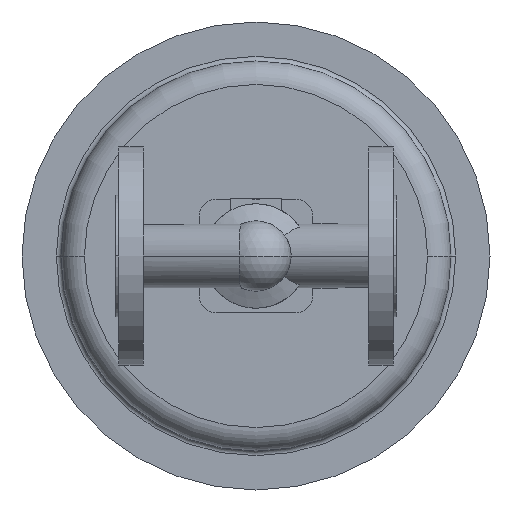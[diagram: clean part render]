
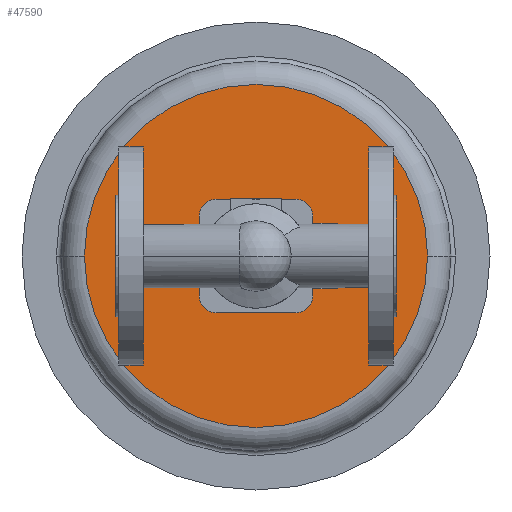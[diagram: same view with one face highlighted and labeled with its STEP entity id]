
A CAD part, front view. The second image highlights one B-rep face of the part: STEP entity #47590.
In plain terms, the highlighted planar face has unit normal (0, -1, 0).
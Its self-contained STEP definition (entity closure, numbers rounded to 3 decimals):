
#33890=CARTESIAN_POINT('',(-20.,356.5,0.));
#33900=VERTEX_POINT('',#33890);
#34000=CARTESIAN_POINT('',(200.,356.5,0.));
#34010=VERTEX_POINT('',#34000);
#34040=CARTESIAN_POINT('',(90.,356.5,0.));
#34050=DIRECTION('',(0.,1.,0.));
#34060=DIRECTION('',(1.,0.,0.));
#34070=AXIS2_PLACEMENT_3D('',#34040,#34050,#34060);
#34080=CIRCLE('',#34070,110.);
#34090=EDGE_CURVE('',#33900,#34010,#34080,.T.);
#34670=CARTESIAN_POINT('',(125.,356.5,0.));
#34680=VERTEX_POINT('',#34670);
#34840=CARTESIAN_POINT('',(155.,356.5,0.));
#34850=VERTEX_POINT('',#34840);
#34880=CARTESIAN_POINT('',(140.,356.5,0.));
#34890=DIRECTION('',(0.,1.,0.));
#34900=DIRECTION('',(1.,0.,0.));
#34910=AXIS2_PLACEMENT_3D('',#34880,#34890,#34900);
#34920=CIRCLE('',#34910,15.);
#34930=EDGE_CURVE('',#34850,#34680,#34920,.T.);
#35090=CARTESIAN_POINT('',(55.,356.5,0.));
#35100=VERTEX_POINT('',#35090);
#35130=CARTESIAN_POINT('',(40.,356.5,0.));
#35140=DIRECTION('',(0.,1.,0.));
#35150=DIRECTION('',(1.,0.,0.));
#35160=AXIS2_PLACEMENT_3D('',#35130,#35140,#35150);
#35170=CIRCLE('',#35160,15.);
#35180=CARTESIAN_POINT('',(25.,356.5,0.));
#35190=VERTEX_POINT('',#35180);
#35200=EDGE_CURVE('',#35100,#35190,#35170,.T.);
#35490=CARTESIAN_POINT('',(71.55,356.5,0.));
#35500=VERTEX_POINT('',#35490);
#35680=CARTESIAN_POINT('',(108.45,356.5,0.));
#35690=VERTEX_POINT('',#35680);
#35720=CARTESIAN_POINT('',(90.,356.5,0.));
#35730=DIRECTION('',(0.,1.,0.));
#35740=DIRECTION('',(1.,0.,0.));
#35750=AXIS2_PLACEMENT_3D('',#35720,#35730,#35740);
#35760=CIRCLE('',#35750,18.45);
#35770=EDGE_CURVE('',#35690,#35500,#35760,.T.);
#47340=CARTESIAN_POINT('',(145.,356.5,0.));
#47350=DIRECTION('',(0.,-1.,0.));
#47360=DIRECTION('',(-1.,0.,0.));
#47370=AXIS2_PLACEMENT_3D('',#47340,#47350,#47360);
#47380=PLANE('',#47370);
#47390=EDGE_CURVE('',#35500,#35690,#35760,.T.);
#47400=ORIENTED_EDGE('',*,*,#47390,.T.);
#47410=ORIENTED_EDGE('',*,*,#35770,.T.);
#47420=EDGE_LOOP('',(#47410,#47400));
#47430=FACE_BOUND('',#47420,.T.);
#47440=ORIENTED_EDGE('',*,*,#35200,.T.);
#47450=EDGE_CURVE('',#35190,#35100,#35170,.T.);
#47460=ORIENTED_EDGE('',*,*,#47450,.T.);
#47470=EDGE_LOOP('',(#47460,#47440));
#47480=FACE_BOUND('',#47470,.T.);
#47490=EDGE_CURVE('',#34680,#34850,#34920,.T.);
#47500=ORIENTED_EDGE('',*,*,#47490,.T.);
#47510=ORIENTED_EDGE('',*,*,#34930,.T.);
#47520=EDGE_LOOP('',(#47510,#47500));
#47530=FACE_BOUND('',#47520,.T.);
#47540=EDGE_CURVE('',#34010,#33900,#34080,.T.);
#47550=ORIENTED_EDGE('',*,*,#47540,.F.);
#47560=ORIENTED_EDGE('',*,*,#34090,.F.);
#47570=EDGE_LOOP('',(#47560,#47550));
#47580=FACE_OUTER_BOUND('',#47570,.T.);
#47590=ADVANCED_FACE('',(#47430,#47480,#47530,#47580),#47380,.T.);
